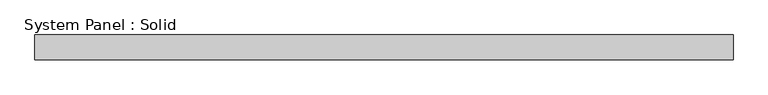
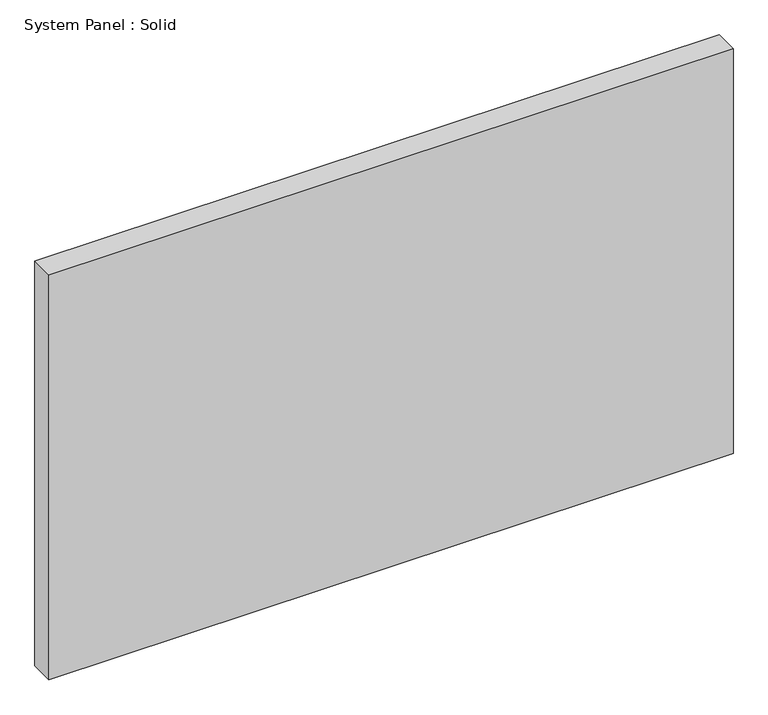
"""IFC4 building model written with IfcOpenShell, lengths in millimetres: plate geometry, System Panel : Solid."""

from ifc_helpers import new_model, si_unit, origin, origin_with_axes, place, context, project, spatial, polyline, outline, extrude, source, transform, mapped, element, save


def system_panel_solid_1f8ff86e(model_context):
    return source(origin(), model_context, "Body", "SweptSolid", [
        extrude(outline(polyline([(898.525, -19.05), (-898.525, -19.05), (-898.525, 44.45), (898.525, 44.45), (898.525, -19.05)])), origin_with_axes(), (0.0, 0.0, 1.0), 1123.95),
    ])


if __name__ == "__main__":
    model = new_model("IFC4")
    model_context = context("Model", 3, world=origin())
    ifc_project = project(units=[si_unit("LENGTHUNIT", "METRE", prefix="MILLI")], contexts=[model_context])
    site = spatial("IfcSite", under=ifc_project)
    building = spatial("IfcBuilding", under=site)
    placement = place(None, origin())
    system_panel_solid_shape = system_panel_solid_1f8ff86e(model_context)
    element("IfcPlate", 1, ObjectType="System Panel : Solid", at=placement, inside=building, context=model_context, shape_type="MappedRepresentation", body=[
        mapped(system_panel_solid_shape, transform((0.0, 0.0, 0.0), x_axis=(1.0, 0.0, 0.0), y_axis=(0.0, 1.0, 0.0), z_axis=(0.0, 0.0, 1.0))),
    ])
    save(model, "model.ifc")
